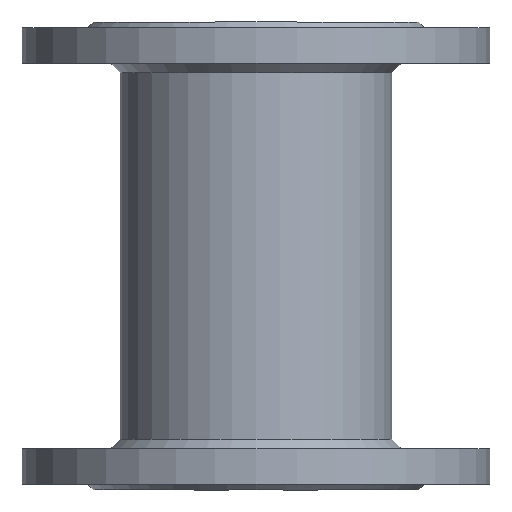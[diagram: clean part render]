
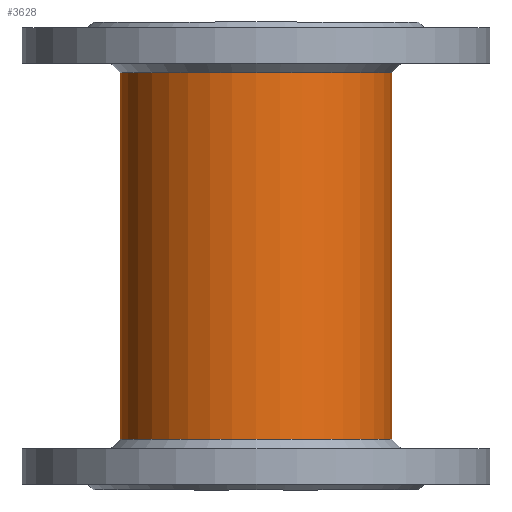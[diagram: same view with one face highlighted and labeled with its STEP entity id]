
A CAD part, front view. The second image highlights one B-rep face of the part: STEP entity #3628.
In plain terms, the highlighted cylindrical face has radius 72.5 mm (diameter 145 mm), a full revolution.
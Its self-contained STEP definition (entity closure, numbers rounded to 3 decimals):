
#2302=FACE_BOUND('',#5385,.T.);
#2303=FACE_BOUND('',#5386,.T.);
#2304=FACE_BOUND('',#5387,.T.);
#2510=CYLINDRICAL_SURFACE('',#15355,72.5);
#2902=CIRCLE('',#15353,72.5);
#2903=CIRCLE('',#15354,72.5);
#3628=ADVANCED_FACE('',(#2302,#2303,#2304),#2510,.T.);
#5385=EDGE_LOOP('',(#9600,#9601,#9602,#9603));
#5386=EDGE_LOOP('',(#9604));
#5387=EDGE_LOOP('',(#9605));
#6111=B_SPLINE_CURVE_WITH_KNOTS('',3,(#31884,#31885,#31886,#31887,#31888,
#31889,#31890,#31891,#31892,#31893),.UNSPECIFIED.,.F.,.F.,(4,2,2,2,4),(0.,
0.25,0.5,0.75,1.),.UNSPECIFIED.);
#6112=B_SPLINE_CURVE_WITH_KNOTS('',3,(#31894,#31895,#31896,#31897,#31898,
#31899,#31900,#31901,#31902,#31903),.UNSPECIFIED.,.F.,.F.,(4,2,2,2,4),(0.,
0.25,0.5,0.75,1.),.UNSPECIFIED.);
#9600=ORIENTED_EDGE('',*,*,#12641,.F.);
#9601=ORIENTED_EDGE('',*,*,#12645,.T.);
#9602=ORIENTED_EDGE('',*,*,#12643,.F.);
#9603=ORIENTED_EDGE('',*,*,#12646,.T.);
#9604=ORIENTED_EDGE('',*,*,#12647,.T.);
#9605=ORIENTED_EDGE('',*,*,#12648,.T.);
#10860=VERTEX_POINT('',#31864);
#10861=VERTEX_POINT('',#31865);
#10862=VERTEX_POINT('',#31867);
#10863=VERTEX_POINT('',#31878);
#10865=VERTEX_POINT('',#31905);
#10866=VERTEX_POINT('',#31907);
#12641=EDGE_CURVE('',#10861,#10862,#13471,.T.);
#12643=EDGE_CURVE('',#10863,#10860,#13472,.T.);
#12645=EDGE_CURVE('',#10861,#10860,#6111,.T.);
#12646=EDGE_CURVE('',#10863,#10862,#6112,.T.);
#12647=EDGE_CURVE('',#10865,#10865,#2902,.T.);
#12648=EDGE_CURVE('',#10866,#10866,#2903,.T.);
#13471=LINE('',#31866,#14420);
#13472=LINE('',#31879,#14421);
#14420=VECTOR('',#18197,1.);
#14421=VECTOR('',#18198,1.);
#15353=AXIS2_PLACEMENT_3D('',#31904,#18205,#18206);
#15354=AXIS2_PLACEMENT_3D('',#31906,#18207,#18208);
#15355=AXIS2_PLACEMENT_3D('',#31908,#18209,#18210);
#18197=DIRECTION('',(0.,0.,-1.));
#18198=DIRECTION('',(0.,0.,1.));
#18205=DIRECTION('',(0.,0.,-1.));
#18206=DIRECTION('',(0.,1.,0.));
#18207=DIRECTION('',(0.,0.,1.));
#18208=DIRECTION('',(0.,-1.,0.));
#18209=DIRECTION('',(0.,0.,-1.));
#18210=DIRECTION('',(0.,-1.,0.));
#31864=CARTESIAN_POINT('',(-16.927,15.5,5.233));
#31865=CARTESIAN_POINT('',(16.896,15.5,5.236));
#31866=CARTESIAN_POINT('',(16.896,15.5,-918.158));
#31867=CARTESIAN_POINT('',(16.896,15.5,-9.235));
#31878=CARTESIAN_POINT('',(-16.927,15.5,-9.236));
#31879=CARTESIAN_POINT('',(-16.927,15.5,-918.158));
#31884=CARTESIAN_POINT('',(16.896,15.5,5.236));
#31885=CARTESIAN_POINT('',(15.218,15.903,8.191));
#31886=CARTESIAN_POINT('',(12.68,16.442,10.524));
#31887=CARTESIAN_POINT('',(6.746,17.246,13.712));
#31888=CARTESIAN_POINT('',(3.344,17.5,14.541));
#31889=CARTESIAN_POINT('',(-3.396,17.5,14.536));
#31890=CARTESIAN_POINT('',(-6.772,17.247,13.713));
#31891=CARTESIAN_POINT('',(-12.708,16.443,10.53));
#31892=CARTESIAN_POINT('',(-15.249,15.903,8.188));
#31893=CARTESIAN_POINT('',(-16.927,15.5,5.233));
#31894=CARTESIAN_POINT('',(-16.927,15.5,-9.236));
#31895=CARTESIAN_POINT('',(-15.255,15.901,-12.194));
#31896=CARTESIAN_POINT('',(-12.715,16.442,-14.525));
#31897=CARTESIAN_POINT('',(-6.774,17.246,-17.712));
#31898=CARTESIAN_POINT('',(-3.375,17.5,-18.539));
#31899=CARTESIAN_POINT('',(3.365,17.5,-18.539));
#31900=CARTESIAN_POINT('',(6.741,17.247,-17.713));
#31901=CARTESIAN_POINT('',(12.68,16.443,-14.526));
#31902=CARTESIAN_POINT('',(15.221,15.902,-12.19));
#31903=CARTESIAN_POINT('',(16.896,15.5,-9.235));
#31904=CARTESIAN_POINT('',(-0.016,-55.,91.242));
#31905=CARTESIAN_POINT('',(-0.016,17.5,91.242));
#31906=CARTESIAN_POINT('',(-0.016,-55.,-104.758));
#31907=CARTESIAN_POINT('',(-0.016,-127.5,-104.758));
#31908=CARTESIAN_POINT('',(-0.016,-55.,-918.158));
